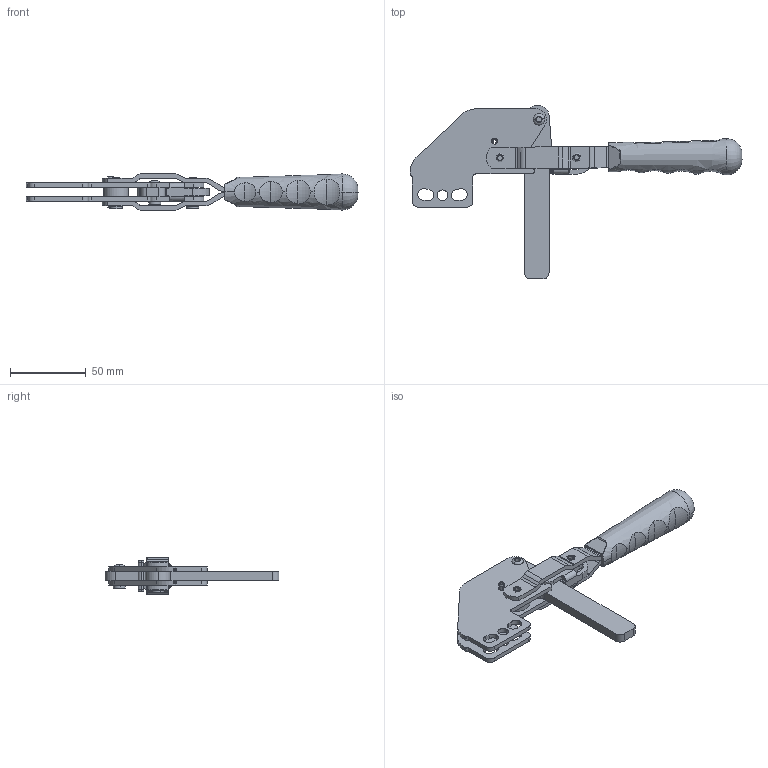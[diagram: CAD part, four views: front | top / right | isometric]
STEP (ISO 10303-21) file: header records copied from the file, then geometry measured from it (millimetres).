
FILE_DESCRIPTION (( 'STEP AP203' ), '1' );
FILE_NAME ('1103_P_L1.STEP', '2025-03-03T13:35:09', ( '' ), ( '' ), 'SwSTEP 2.0', 'SolidWorks 2025', '' );
FILE_SCHEMA (( 'CONFIG_CONTROL_DESIGN' ));
Length unit declared in the file: millimetre
Products named in the file (14): 1103_M(MAFSAL)_Varsayılan; 1103_BK_L1(BASKI_KOLU_LAMA1)_Varsayılan; Ø4x20_YP(YARIKLI_PİM)_Varsayılan; Mirror1103_A_G(GÖVDE)_Varsayılan; Ø5x15_P(PERÇİN)_Varsayılan; Ø5x21_P(PERÇİN)_Varsayılan; 1103_P_L1; Ø16,5xØ8,5x6_LY(LAZER_YÜZÜK)_Varsayılan; 1103_HK(HAREKET_KOLU)_Varsayılan; Mirror1103_HK(HAREKET_KOLU)_Varsayılan; C90_T(YENİ_TUTAMAK)_Varsayılan; 1103_A_G(GÖVDE)_Varsayılan; Ø8xØ5x12_B(BURÇ)_Varsayılan; Ø8xØ5x6_B(BURÇ)_Varsayılan
Assembly tree (17 placements, depth 2):
  1103_P_L1
    1103_A_G(GÖVDE)_Varsayılan
    1103_BK_L1(BASKI_KOLU_LAMA1)_Varsayılan
    1103_M(MAFSAL)_Varsayılan
    1103_HK(HAREKET_KOLU)_Varsayılan
    Ø8xØ5x6_B(BURÇ)_Varsayılan  x2
    Ø8xØ5x12_B(BURÇ)_Varsayılan  x2
    Ø16,5xØ8,5x6_LY(LAZER_YÜZÜK)_Varsayılan
    Mirror1103_A_G(GÖVDE)_Varsayılan
    Mirror1103_HK(HAREKET_KOLU)_Varsayılan
    Ø5x15_P(PERÇİN)_Varsayılan  x2
    Ø5x21_P(PERÇİN)_Varsayılan  x2
    C90_T(YENİ_TUTAMAK)_Varsayılan
    Ø4x20_YP(YARIKLI_PİM)_Varsayılan
Bounding box: 219.29 x 114.84 x 24 mm (x, y, z)
Volume: 74662.2 mm3; surface area: 50966.4 mm2
Topology: 17 solids, 17 shells, 935 faces, 2400 edges, 1560 vertices
Faces by surface type: plane 611, cylinder 232, cone 40, torus 36, bspline 14, sphere 2
Entity records: 23217 total; most frequent: CARTESIAN_POINT 4599, DIRECTION 3577, ORIENTED_EDGE 3528, EDGE_CURVE 1764, AXIS2_PLACEMENT_3D 1210, LINE 1157, VECTOR 1157, VERTEX_POINT 1152
